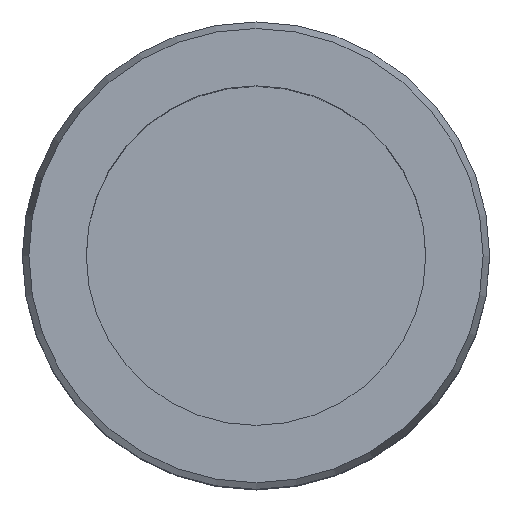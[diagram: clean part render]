
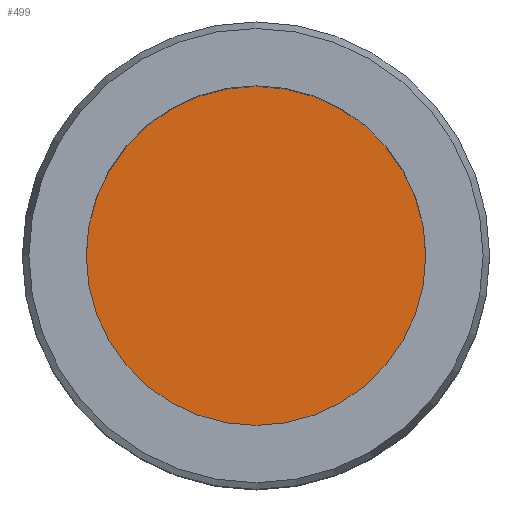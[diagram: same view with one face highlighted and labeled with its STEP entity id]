
A CAD part, top view. The second image highlights one B-rep face of the part: STEP entity #499.
In plain terms, the highlighted planar face has unit normal (0, 0, 1).
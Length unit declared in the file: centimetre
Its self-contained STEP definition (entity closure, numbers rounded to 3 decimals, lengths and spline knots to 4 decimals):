
#130=PLANE('',#555);
#183=VERTEX_POINT('',#1180);
#219=CIRCLE('',#556,2.2924);
#273=EDGE_CURVE('',#183,#183,#219,.T.);
#373=ORIENTED_EDGE('',*,*,#273,.T.);
#417=EDGE_LOOP('',(#373));
#461=FACE_BOUND('',#417,.T.);
#499=ADVANCED_FACE('',(#461),#130,.T.);
#555=AXIS2_PLACEMENT_3D('',#1178,#665,$);
#556=AXIS2_PLACEMENT_3D('',#1179,#666,#667);
#665=DIRECTION('',(0.,0.,1.));
#666=DIRECTION('',(0.,0.,1.));
#667=DIRECTION('',(0.,2.292,0.));
#1178=CARTESIAN_POINT('',(0.,1.5773,-4.7498));
#1179=CARTESIAN_POINT('',(0.,0.,-4.7498));
#1180=CARTESIAN_POINT('',(0.,2.2924,-4.7498));
